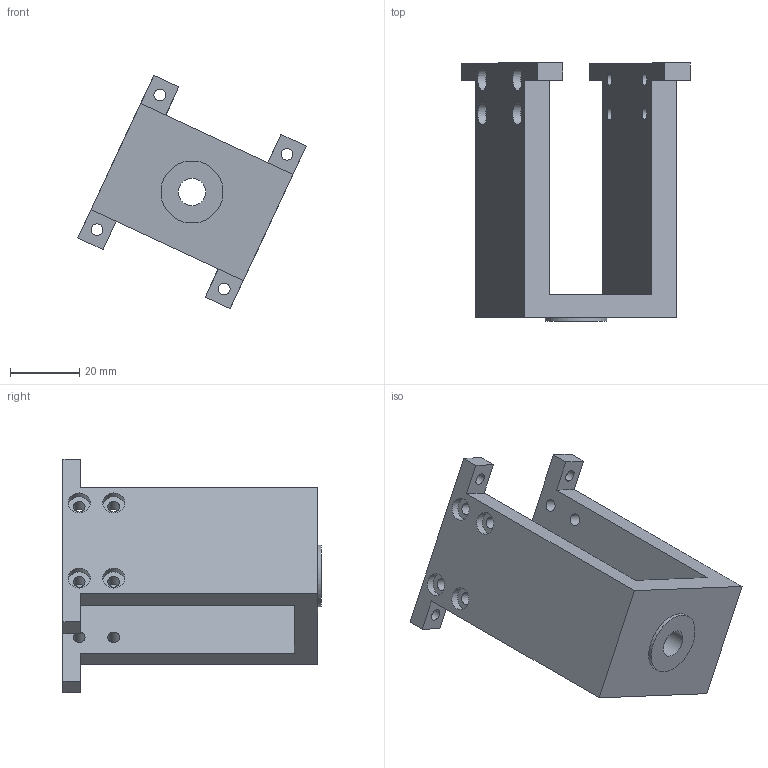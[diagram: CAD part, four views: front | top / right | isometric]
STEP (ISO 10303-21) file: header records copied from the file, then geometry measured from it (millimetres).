
FILE_DESCRIPTION(('Open CASCADE Model'),'2;1');
FILE_NAME('Open CASCADE Shape Model','2026-10-17T22:15:36',('Author'),( 'Open CASCADE'),'Open CASCADE STEP processor 7.9','Open CASCADE 7.9' ,'Unknown');
FILE_SCHEMA(('AUTOMOTIVE_DESIGN { 1 0 10303 214 1 1 1 1 }'));
Length unit declared in the file: millimetre
Products named in the file (1): Open CASCADE STEP translator 7.9 13
Bounding box: 66.02 x 74.7 x 67.67 mm (x, y, z)
Volume: 47823.7 mm3; surface area: 17530.5 mm2
Topology: 1 solids, 1 shells, 41 faces, 102 edges, 68 vertices
Faces by surface type: plane 23, cylinder 18
Full cylindrical faces by diameter (mm): 3.4 x12, 6.4 x4, 8 x1, 18 x1
Entity records: 2687 total; most frequent: CARTESIAN_POINT 556, DIRECTION 401, LINE 232, VECTOR 232, ORIENTED_EDGE 204, PCURVE 204, DEFINITIONAL_REPRESENTATION 204, EDGE_CURVE 102
